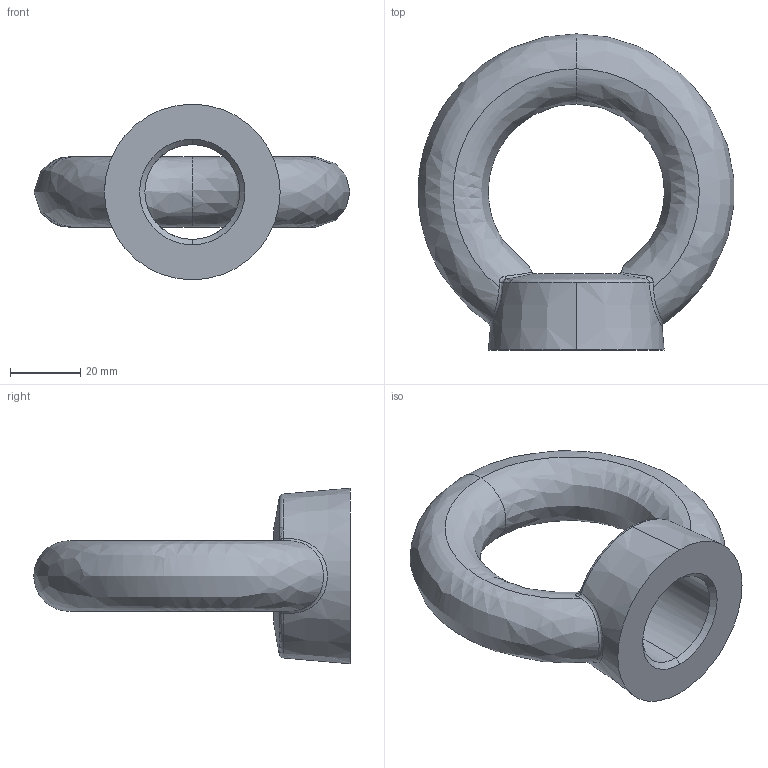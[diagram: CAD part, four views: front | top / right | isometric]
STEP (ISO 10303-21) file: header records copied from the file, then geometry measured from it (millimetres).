
FILE_DESCRIPTION (( 'STEP AP203' ), '1' );
FILE_NAME ('P4041.270-ZP.step', '2023-04-16T08:00:48', ( '' ), ( '' ), 'SwSTEP 2.0', 'SolidWorks 2019', '' );
FILE_SCHEMA (( 'CONFIG_CONTROL_DESIGN' ));
Length unit declared in the file: millimetre
Products named in the file (1): P4041.270-ZP
Bounding box: 89.84 x 89.98 x 50 mm (x, y, z)
Volume: 80855 mm3; surface area: 17781.5 mm2
Topology: 1 solids, 1 shells, 27 faces, 69 edges, 41 vertices
Faces by surface type: bspline 14, cone 7, torus 3, cylinder 2, plane 1
Entity records: 3230 total; most frequent: CARTESIAN_POINT 2604, ORIENTED_EDGE 138, DIRECTION 87, EDGE_CURVE 69, VERTEX_POINT 41, AXIS2_PLACEMENT_3D 40, B_SPLINE_CURVE_WITH_KNOTS 34, EDGE_LOOP 28
